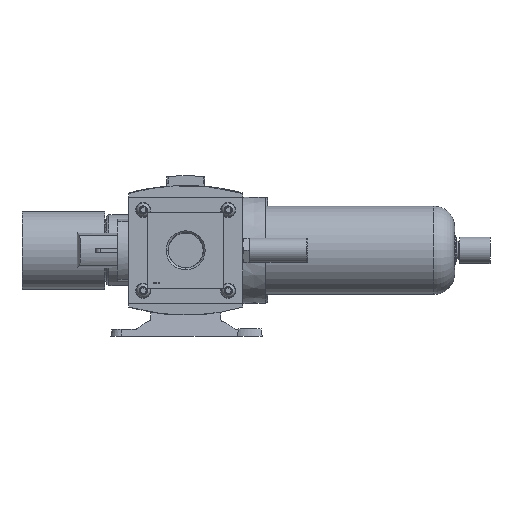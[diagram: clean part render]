
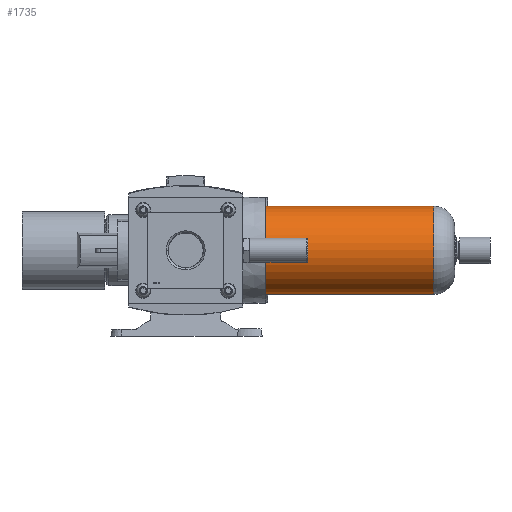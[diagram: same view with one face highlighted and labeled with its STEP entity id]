
A CAD part, left-side view. The second image highlights one B-rep face of the part: STEP entity #1735.
In plain terms, the highlighted cylindrical face has radius 31.75 mm (diameter 63.5 mm), a full revolution.
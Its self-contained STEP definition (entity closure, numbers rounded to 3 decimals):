
#1735 = ADVANCED_FACE( '', ( #4356, #4357 ), #4358, .T. );
#4356 = FACE_OUTER_BOUND( '', #8327, .T. );
#4357 = FACE_OUTER_BOUND( '', #8328, .T. );
#4358 = CYLINDRICAL_SURFACE( '', #8329, 31.75 );
#8327 = EDGE_LOOP( '', ( #12489 ) );
#8328 = EDGE_LOOP( '', ( #12490 ) );
#8329 = AXIS2_PLACEMENT_3D( '', #12491, #12492, #12493 );
#12489 = ORIENTED_EDGE( '', *, *, #22800, .F. );
#12490 = ORIENTED_EDGE( '', *, *, #22801, .T. );
#12491 = CARTESIAN_POINT( '', ( 0., -136.7, 0. ) );
#12492 = DIRECTION( '', ( 0., 1., 0. ) );
#12493 = DIRECTION( '', ( 0., 0., -1. ) );
#22800 = EDGE_CURVE( '', #26931, #26931, #26932, .T. );
#22801 = EDGE_CURVE( '', #26933, #26933, #26934, .T. );
#26931 = VERTEX_POINT( '', #32977 );
#26932 = CIRCLE( '', #32978, 31.75 );
#26933 = VERTEX_POINT( '', #32979 );
#26934 = CIRCLE( '', #32980, 31.75 );
#32977 = CARTESIAN_POINT( '', ( 0., -121.1, -31.75 ) );
#32978 = AXIS2_PLACEMENT_3D( '', #41417, #41418, #41419 );
#32979 = CARTESIAN_POINT( '', ( 0., 0., -31.75 ) );
#32980 = AXIS2_PLACEMENT_3D( '', #41420, #41421, #41422 );
#41417 = CARTESIAN_POINT( '', ( 0., -121.1, 0. ) );
#41418 = DIRECTION( '', ( 0., -1., 0. ) );
#41419 = DIRECTION( '', ( 0., 0., -1. ) );
#41420 = CARTESIAN_POINT( '', ( 0., 0., 0. ) );
#41421 = DIRECTION( '', ( 0., -1., 0. ) );
#41422 = DIRECTION( '', ( 0., 0., -1. ) );
